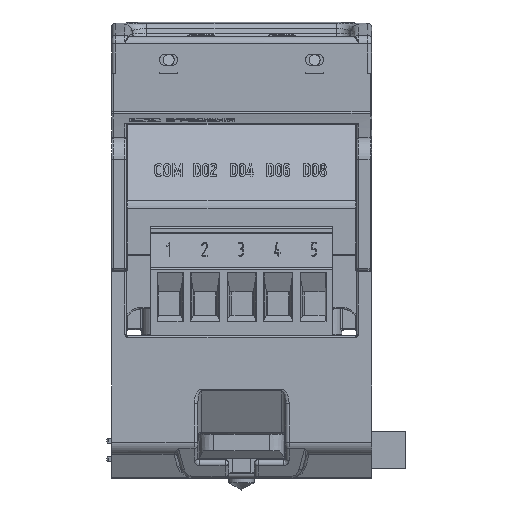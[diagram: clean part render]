
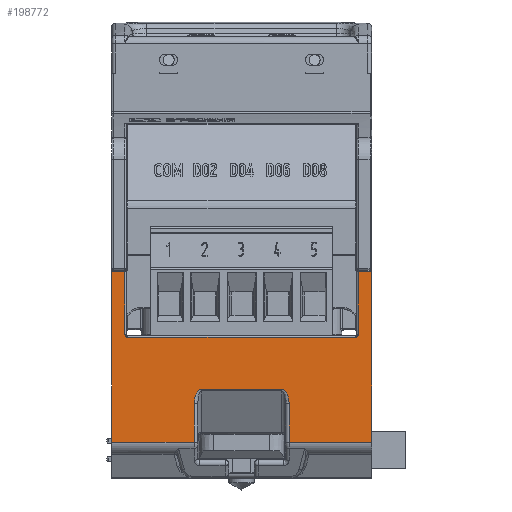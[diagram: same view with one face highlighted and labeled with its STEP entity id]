
A CAD part, front view. The second image highlights one B-rep face of the part: STEP entity #198772.
In plain terms, the highlighted planar face has unit normal (0, -1, 0).
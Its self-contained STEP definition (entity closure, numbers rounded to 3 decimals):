
#2454 = VERTEX_POINT ( 'NONE', #117790 ) ;
#4334 = CARTESIAN_POINT ( 'NONE',  ( 15.6, -56., -8.8 ) ) ;
#5697 = EDGE_CURVE ( 'NONE', #29852, #2454, #253978, .T. ) ;
#5705 = EDGE_CURVE ( 'NONE', #66678, #202913, #208442, .T. ) ;
#11627 = LINE ( 'NONE', #174172, #239014 ) ;
#12195 = CARTESIAN_POINT ( 'NONE',  ( 16., -56., -8.8 ) ) ;
#14605 = EDGE_CURVE ( 'NONE', #48187, #172630, #130771, .T. ) ;
#15392 = CARTESIAN_POINT ( 'NONE',  ( 6.086, -56., -16.304 ) ) ;
#15423 =( BOUNDED_CURVE ( )  B_SPLINE_CURVE ( 3, ( #183442, #15392, #245888, #181645 ),
 .UNSPECIFIED., .F., .F. ) 
 B_SPLINE_CURVE_WITH_KNOTS ( ( 4, 4 ),
 ( 3.142, 4.712 ),
 .UNSPECIFIED. ) 
 CURVE ( )  GEOMETRIC_REPRESENTATION_ITEM ( )  RATIONAL_B_SPLINE_CURVE ( ( 1., 0.805, 0.805, 1. ) ) 
 REPRESENTATION_ITEM ( '' )  );
#15751 = LINE ( 'NONE', #32112, #71022 ) ;
#16790 = VECTOR ( 'NONE', #52194, 1000. ) ;
#20528 = CARTESIAN_POINT ( 'NONE',  ( 17.8, -56., -23.574 ) ) ;
#21170 = ORIENTED_EDGE ( 'NONE', *, *, #45654, .T. ) ;
#21832 = EDGE_CURVE ( 'NONE', #254373, #42756, #189954, .T. ) ;
#22004 = CARTESIAN_POINT ( 'NONE',  ( 15.6, -56., -9.2 ) ) ;
#27288 = CARTESIAN_POINT ( 'NONE',  ( -5.5, -56., -16.304 ) ) ;
#28598 = CARTESIAN_POINT ( 'NONE',  ( -6.5, -56., -23.574 ) ) ;
#28825 = DIRECTION ( 'NONE',  ( 0., 0., 1. ) ) ;
#29469 = VERTEX_POINT ( 'NONE', #173034 ) ;
#29852 = VERTEX_POINT ( 'NONE', #60215 ) ;
#30439 = ORIENTED_EDGE ( 'NONE', *, *, #21832, .T. ) ;
#32112 = CARTESIAN_POINT ( 'NONE',  ( 17.8, -56., -23.574 ) ) ;
#32163 = EDGE_LOOP ( 'NONE', ( #250854, #258869, #153062, #89316, #170338, #116054, #249178, #97979, #169966, #21170, #99450, #253593, #235697, #111945, #30439, #203359 ) ) ;
#35780 = EDGE_CURVE ( 'NONE', #160646, #205650, #191091, .T. ) ;
#35937 = VERTEX_POINT ( 'NONE', #61797 ) ;
#36685 = CARTESIAN_POINT ( 'NONE',  ( 17.8, -56., -16.304 ) ) ;
#37035 = VECTOR ( 'NONE', #246560, 1000. ) ;
#42068 = DIRECTION ( 'NONE',  ( -1., 0., 0. ) ) ;
#42145 = CARTESIAN_POINT ( 'NONE',  ( 17.8, -56., -0.2 ) ) ;
#42756 = VERTEX_POINT ( 'NONE', #84474 ) ;
#44749 = PLANE ( 'NONE',  #250980 ) ;
#45654 = EDGE_CURVE ( 'NONE', #2454, #160646, #196587, .T. ) ;
#47152 = CARTESIAN_POINT ( 'NONE',  ( 6.5, -56., 0. ) ) ;
#47463 = CARTESIAN_POINT ( 'NONE',  ( 16., -56., -0.2 ) ) ;
#48187 = VERTEX_POINT ( 'NONE', #22004 ) ;
#50307 = DIRECTION ( 'NONE',  ( 1., 0., 0. ) ) ;
#50314 = EDGE_CURVE ( 'NONE', #35937, #254373, #15423, .T. ) ;
#52194 = DIRECTION ( 'NONE',  ( 0., 0., 1. ) ) ;
#52522 = LINE ( 'NONE', #70369, #16790 ) ;
#52836 = AXIS2_PLACEMENT_3D ( 'NONE', #4334, #233915, #233013 ) ;
#54498 = VECTOR ( 'NONE', #117299, 1000. ) ;
#60215 = CARTESIAN_POINT ( 'NONE',  ( -17.8, -56., -0.2 ) ) ;
#61797 = CARTESIAN_POINT ( 'NONE',  ( 5.5, -56., -16.304 ) ) ;
#66678 = VERTEX_POINT ( 'NONE', #42145 ) ;
#68382 = FACE_OUTER_BOUND ( 'NONE', #32163, .T. ) ;
#69776 = CARTESIAN_POINT ( 'NONE',  ( -15.8, -56., -9.2 ) ) ;
#70369 = CARTESIAN_POINT ( 'NONE',  ( -16., -56., 0. ) ) ;
#71022 = VECTOR ( 'NONE', #50307, 1000. ) ;
#75579 = DIRECTION ( 'NONE',  ( -1., 0., 0. ) ) ;
#80406 = EDGE_CURVE ( 'NONE', #29469, #233760, #136872, .T. ) ;
#83635 = EDGE_CURVE ( 'NONE', #202913, #172630, #194156, .T. ) ;
#84474 = CARTESIAN_POINT ( 'NONE',  ( 6.5, -56., -23.574 ) ) ;
#84762 = CARTESIAN_POINT ( 'NONE',  ( 17.8, -56., -0.2 ) ) ;
#87899 = DIRECTION ( 'NONE',  ( 0., -1., 0. ) ) ;
#88310 = VECTOR ( 'NONE', #235865, 1000. ) ;
#89316 = ORIENTED_EDGE ( 'NONE', *, *, #14605, .F. ) ;
#96546 = DIRECTION ( 'NONE',  ( 0., 0., -1. ) ) ;
#97979 = ORIENTED_EDGE ( 'NONE', *, *, #168852, .T. ) ;
#99450 = ORIENTED_EDGE ( 'NONE', *, *, #35780, .T. ) ;
#103368 = CARTESIAN_POINT ( 'NONE',  ( -6.5, -56., -18.304 ) ) ;
#105156 = CARTESIAN_POINT ( 'NONE',  ( -6.086, -56., -16.304 ) ) ;
#107809 = LINE ( 'NONE', #69776, #88310 ) ;
#111175 = CARTESIAN_POINT ( 'NONE',  ( -17.8, -56., 0. ) ) ;
#111945 = ORIENTED_EDGE ( 'NONE', *, *, #50314, .T. ) ;
#116054 = ORIENTED_EDGE ( 'NONE', *, *, #80406, .F. ) ;
#117299 = DIRECTION ( 'NONE',  ( 0., 0., 1. ) ) ;
#117372 = CARTESIAN_POINT ( 'NONE',  ( 17.8, -56., -0.2 ) ) ;
#117790 = CARTESIAN_POINT ( 'NONE',  ( -17.8, -56., -23.574 ) ) ;
#130771 = CIRCLE ( 'NONE', #52836, 0.4 ) ;
#136872 = CIRCLE ( 'NONE', #268741, 0.4 ) ;
#139930 = CARTESIAN_POINT ( 'NONE',  ( 16., -56., -9. ) ) ;
#142945 = VECTOR ( 'NONE', #42068, 1000. ) ;
#147800 = CARTESIAN_POINT ( 'NONE',  ( -6.5, -56., -17.132 ) ) ;
#150428 = EDGE_CURVE ( 'NONE', #48187, #233760, #107809, .T. ) ;
#152283 = CARTESIAN_POINT ( 'NONE',  ( -15.6, -56., -8.8 ) ) ;
#153062 = ORIENTED_EDGE ( 'NONE', *, *, #83635, .T. ) ;
#156446 = VECTOR ( 'NONE', #75579, 1000. ) ;
#159966 = CARTESIAN_POINT ( 'NONE',  ( -6.5, -56., 0. ) ) ;
#160646 = VERTEX_POINT ( 'NONE', #28598 ) ;
#164235 = EDGE_CURVE ( 'NONE', #66678, #231682, #11627, .T. ) ;
#164440 = DIRECTION ( 'NONE',  ( 0., 0., -1. ) ) ;
#168691 = CARTESIAN_POINT ( 'NONE',  ( -5.5, -56., -16.304 ) ) ;
#168852 = EDGE_CURVE ( 'NONE', #216207, #29852, #198227, .T. ) ;
#169966 = ORIENTED_EDGE ( 'NONE', *, *, #5697, .T. ) ;
#170338 = ORIENTED_EDGE ( 'NONE', *, *, #150428, .T. ) ;
#172630 = VERTEX_POINT ( 'NONE', #12195 ) ;
#173034 = CARTESIAN_POINT ( 'NONE',  ( -16., -56., -8.8 ) ) ;
#174172 = CARTESIAN_POINT ( 'NONE',  ( 17.8, -56., 0. ) ) ;
#181645 = CARTESIAN_POINT ( 'NONE',  ( 6.5, -56., -18.304 ) ) ;
#183442 = CARTESIAN_POINT ( 'NONE',  ( 5.5, -56., -16.304 ) ) ;
#189120 = DIRECTION ( 'NONE',  ( 0., 1., 0. ) ) ;
#189954 = LINE ( 'NONE', #47152, #222304 ) ;
#190518 = CARTESIAN_POINT ( 'NONE',  ( -6.5, -56., -18.304 ) ) ;
#191091 = LINE ( 'NONE', #159966, #54498 ) ;
#192683 = DIRECTION ( 'NONE',  ( 0., 0., 1. ) ) ;
#194156 = LINE ( 'NONE', #139930, #216761 ) ;
#195011 = EDGE_CURVE ( 'NONE', #29469, #216207, #52522, .T. ) ;
#196587 = LINE ( 'NONE', #20528, #37035 ) ;
#196931 = EDGE_CURVE ( 'NONE', #42756, #231682, #15751, .T. ) ;
#197789 =( BOUNDED_CURVE ( )  B_SPLINE_CURVE ( 3, ( #190518, #147800, #105156, #168691 ),
 .UNSPECIFIED., .F., .F. ) 
 B_SPLINE_CURVE_WITH_KNOTS ( ( 4, 4 ),
 ( 1.571, 3.142 ),
 .UNSPECIFIED. ) 
 CURVE ( )  GEOMETRIC_REPRESENTATION_ITEM ( )  RATIONAL_B_SPLINE_CURVE ( ( 1., 0.805, 0.805, 1. ) ) 
 REPRESENTATION_ITEM ( '' )  );
#198227 = LINE ( 'NONE', #84762, #142945 ) ;
#198772 = ADVANCED_FACE ( 'NONE', ( #68382 ), #44749, .F. ) ;
#202913 = VERTEX_POINT ( 'NONE', #47463 ) ;
#203359 = ORIENTED_EDGE ( 'NONE', *, *, #196931, .T. ) ;
#205650 = VERTEX_POINT ( 'NONE', #103368 ) ;
#208442 = LINE ( 'NONE', #117372, #156446 ) ;
#212301 = EDGE_CURVE ( 'NONE', #240754, #35937, #237724, .T. ) ;
#216207 = VERTEX_POINT ( 'NONE', #268647 ) ;
#216761 = VECTOR ( 'NONE', #164440, 1000. ) ;
#218979 = CARTESIAN_POINT ( 'NONE',  ( 17.8, -56., -23.574 ) ) ;
#222304 = VECTOR ( 'NONE', #251293, 1000. ) ;
#226265 = DIRECTION ( 'NONE',  ( 1., 0., 0. ) ) ;
#231177 = VECTOR ( 'NONE', #226265, 1000. ) ;
#231682 = VERTEX_POINT ( 'NONE', #218979 ) ;
#232964 = EDGE_CURVE ( 'NONE', #205650, #240754, #197789, .T. ) ;
#233013 = DIRECTION ( 'NONE',  ( 0., 0., 1. ) ) ;
#233410 = CARTESIAN_POINT ( 'NONE',  ( 17.8, -56., 0. ) ) ;
#233760 = VERTEX_POINT ( 'NONE', #235769 ) ;
#233915 = DIRECTION ( 'NONE',  ( 0., -1., 0. ) ) ;
#234896 = DIRECTION ( 'NONE',  ( 0., 0., -1. ) ) ;
#235697 = ORIENTED_EDGE ( 'NONE', *, *, #212301, .T. ) ;
#235769 = CARTESIAN_POINT ( 'NONE',  ( -15.6, -56., -9.2 ) ) ;
#235865 = DIRECTION ( 'NONE',  ( -1., 0., 0. ) ) ;
#237724 = LINE ( 'NONE', #36685, #231177 ) ;
#239014 = VECTOR ( 'NONE', #234896, 1000. ) ;
#240754 = VERTEX_POINT ( 'NONE', #27288 ) ;
#245888 = CARTESIAN_POINT ( 'NONE',  ( 6.5, -56., -17.132 ) ) ;
#246560 = DIRECTION ( 'NONE',  ( 1., 0., 0. ) ) ;
#249178 = ORIENTED_EDGE ( 'NONE', *, *, #195011, .T. ) ;
#250842 = VECTOR ( 'NONE', #96546, 1000. ) ;
#250854 = ORIENTED_EDGE ( 'NONE', *, *, #164235, .F. ) ;
#250980 = AXIS2_PLACEMENT_3D ( 'NONE', #233410, #189120, #192683 ) ;
#251293 = DIRECTION ( 'NONE',  ( 0., 0., -1. ) ) ;
#253593 = ORIENTED_EDGE ( 'NONE', *, *, #232964, .T. ) ;
#253978 = LINE ( 'NONE', #111175, #250842 ) ;
#254373 = VERTEX_POINT ( 'NONE', #265896 ) ;
#258869 = ORIENTED_EDGE ( 'NONE', *, *, #5705, .T. ) ;
#265896 = CARTESIAN_POINT ( 'NONE',  ( 6.5, -56., -18.304 ) ) ;
#268647 = CARTESIAN_POINT ( 'NONE',  ( -16., -56., -0.2 ) ) ;
#268741 = AXIS2_PLACEMENT_3D ( 'NONE', #152283, #87899, #28825 ) ;
